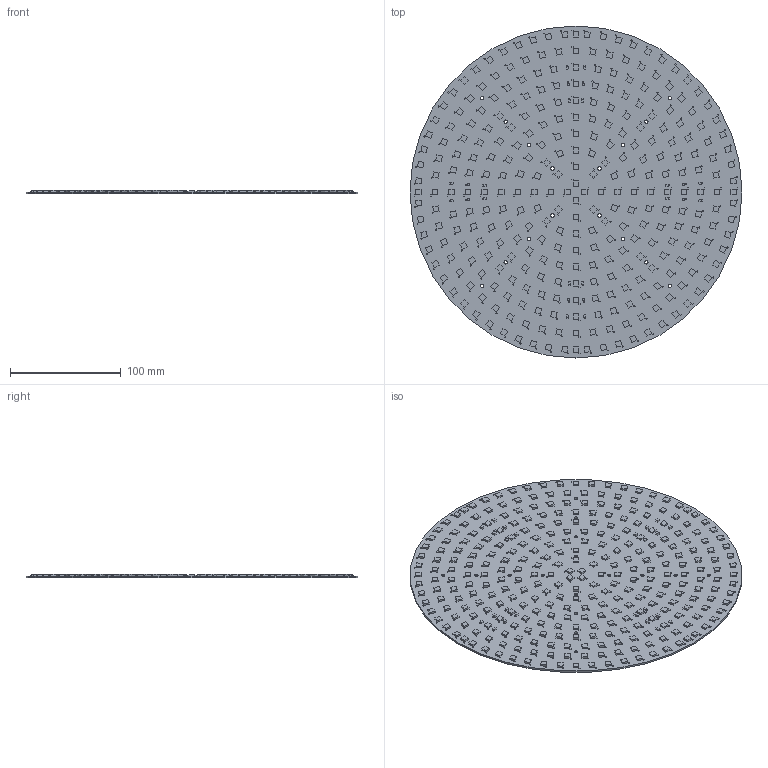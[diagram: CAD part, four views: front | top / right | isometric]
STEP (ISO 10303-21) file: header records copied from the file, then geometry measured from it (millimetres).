
FILE_DESCRIPTION (( 'STEP AP203' ), '1' );
FILE_NAME ('energy-board-3d.step', '2026-10-13T08:43:52', ( '' ), ( '' ), 'SwSTEP 2.0', 'SolidWorks 2024', '' );
FILE_SCHEMA (( 'CONFIG_CONTROL_DESIGN' ));
Products named in the file (1): energy-board-3d
Bounding box: 300 x 300 x 3.2 mm (x, y, z)
Volume: 125505.2 mm3; surface area: 169551 mm2
Topology: 665 solids, 665 shells, 4020 faces, 8070 edges, 5380 vertices
Faces by surface type: plane 3986, cylinder 34
Entity records: 100955 total; most frequent: CARTESIAN_POINT 17471, DIRECTION 16180, ORIENTED_EDGE 16140, EDGE_CURVE 8070, VECTOR 8002, LINE 8002, VERTEX_POINT 5380, AXIS2_PLACEMENT_3D 4089
